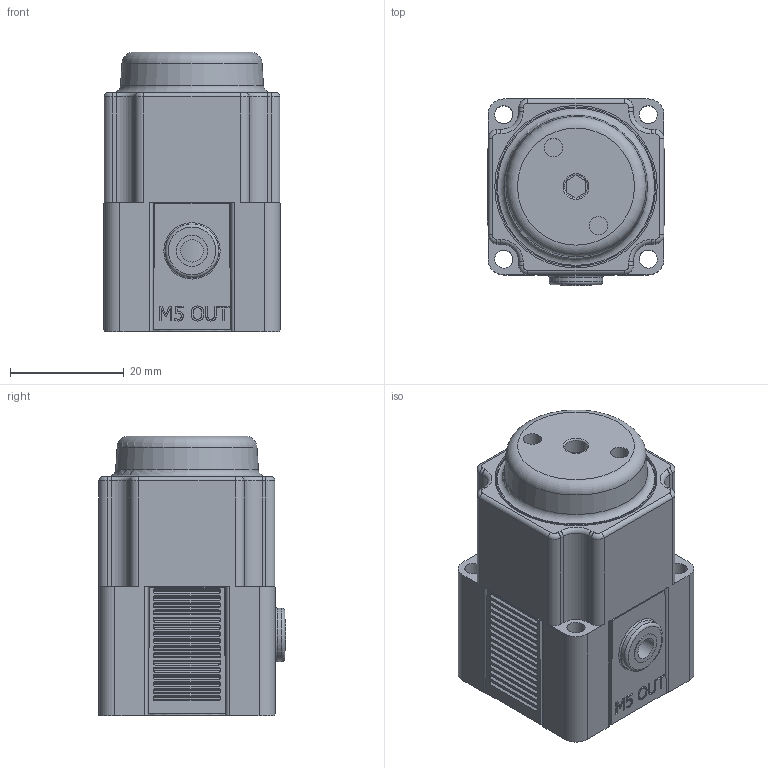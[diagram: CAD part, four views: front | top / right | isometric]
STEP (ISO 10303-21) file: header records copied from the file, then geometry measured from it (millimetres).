
FILE_DESCRIPTION(/* description */ (''),/* implementation_level */ '2;1');
FILE_NAME(/* name */ 'K:\Normteile INVENTOR\Air-Logic\Regulators\PR7000\PR 7___ S M5 Threads Out.igs.ipt.stp',/* time_stamp */ '2020-05-27T10:54:43+02:00',/* author */ ('Paul'),/* organization */ (''),/* preprocessor_version */ 'ST-DEVELOPER v18',/* originating_system */ 'Autodesk Inventor 2020',/* authorisation */ '');
FILE_SCHEMA (('AUTOMOTIVE_DESIGN { 1 0 10303 214 3 1 1 }'));
Length unit declared in the file: inch
Products named in the file (1): PR 7___ S M5 Threads Out.igs
Bounding box: 31.19 x 32.97 x 49.15 mm (x, y, z)
Volume: 39260.1 mm3; surface area: 12254.1 mm2
Topology: 1 solids, 1 shells, 647 faces, 1682 edges, 1099 vertices
Faces by surface type: plane 325, cylinder 248, bspline 51, torus 21, cone 2
Full cylindrical faces by diameter (mm): 3.175 x4, 3.226 x2, 3.962 x1, 4.013 x1, 5.486 x1, 6.248 x1, 9.169 x1, 9.398 x1, 9.652 x1, 12.903 x1, 26.264 x1, 27.991 x1, 28.047 x1, 28.575 x1
Entity records: 22256 total; most frequent: CARTESIAN_POINT 5412, DIRECTION 3450, ORIENTED_EDGE 3364, EDGE_CURVE 1682, AXIS2_PLACEMENT_3D 1333, VERTEX_POINT 1099, LINE 784, VECTOR 784
